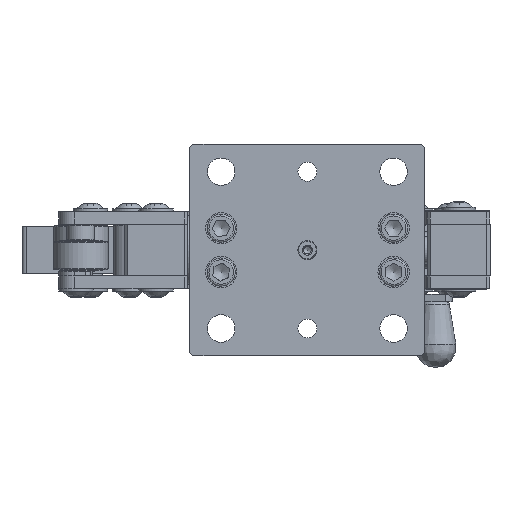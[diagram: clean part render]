
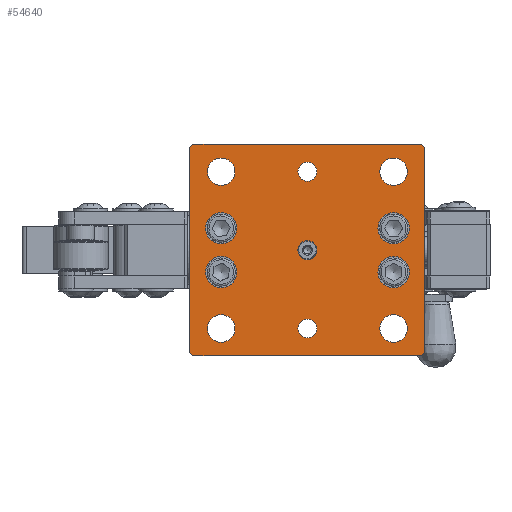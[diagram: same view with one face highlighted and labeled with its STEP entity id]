
A CAD part, left-side view. The second image highlights one B-rep face of the part: STEP entity #54640.
In plain terms, the highlighted planar face has unit normal (-1, 0, 0) as drawn and (0, 0, -1) by its records, which use the part's own axes.
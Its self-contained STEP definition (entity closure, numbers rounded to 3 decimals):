
#5515=FACE_BOUND('',#13416,.T.);
#5516=FACE_BOUND('',#13417,.T.);
#5517=FACE_BOUND('',#13418,.T.);
#5518=FACE_BOUND('',#13419,.T.);
#5519=FACE_BOUND('',#13420,.T.);
#5520=FACE_BOUND('',#13421,.T.);
#5521=FACE_BOUND('',#13422,.T.);
#5522=FACE_BOUND('',#13423,.T.);
#5523=FACE_BOUND('',#13424,.T.);
#5524=FACE_BOUND('',#13425,.T.);
#5525=FACE_BOUND('',#13426,.T.);
#7231=PLANE('',#57289);
#9986=FACE_OUTER_BOUND('',#13415,.T.);
#13415=EDGE_LOOP('',(#50488,#50489,#50490,#50491,#50492,#50493,#50494,#50495));
#13416=EDGE_LOOP('',(#50496));
#13417=EDGE_LOOP('',(#50497));
#13418=EDGE_LOOP('',(#50498));
#13419=EDGE_LOOP('',(#50499));
#13420=EDGE_LOOP('',(#50500));
#13421=EDGE_LOOP('',(#50501));
#13422=EDGE_LOOP('',(#50502));
#13423=EDGE_LOOP('',(#50503));
#13424=EDGE_LOOP('',(#50504));
#13425=EDGE_LOOP('',(#50505));
#13426=EDGE_LOOP('',(#50506));
#18567=LINE('',#94813,#23623);
#18574=LINE('',#94825,#23630);
#18580=LINE('',#94837,#23636);
#18582=LINE('',#94841,#23638);
#18584=LINE('',#94847,#23640);
#18586=LINE('',#94851,#23642);
#18591=LINE('',#94859,#23647);
#18594=LINE('',#94910,#23650);
#23623=VECTOR('',#66912,2.828);
#23630=VECTOR('',#66921,131.);
#23636=VECTOR('',#66931,2.828);
#23638=VECTOR('',#66935,146.);
#23640=VECTOR('',#66941,2.828);
#23642=VECTOR('',#66945,131.);
#23647=VECTOR('',#66952,2.828);
#23650=VECTOR('',#67019,146.);
#24360=CIRCLE('',#57215,6.05);
#24362=CIRCLE('',#57218,6.05);
#24364=CIRCLE('',#57221,6.05);
#24367=CIRCLE('',#57227,8.75);
#24371=CIRCLE('',#57234,8.75);
#24375=CIRCLE('',#57241,8.75);
#24378=CIRCLE('',#57247,8.75);
#24385=CIRCLE('',#57268,10.);
#24388=CIRCLE('',#57274,10.);
#24391=CIRCLE('',#57280,10.);
#24394=CIRCLE('',#57286,10.);
#29046=VERTEX_POINT('',#94754);
#29048=VERTEX_POINT('',#94759);
#29050=VERTEX_POINT('',#94764);
#29053=VERTEX_POINT('',#94773);
#29057=VERTEX_POINT('',#94784);
#29061=VERTEX_POINT('',#94795);
#29064=VERTEX_POINT('',#94804);
#29067=VERTEX_POINT('',#94810);
#29068=VERTEX_POINT('',#94812);
#29072=VERTEX_POINT('',#94823);
#29076=VERTEX_POINT('',#94835);
#29077=VERTEX_POINT('',#94839);
#29078=VERTEX_POINT('',#94844);
#29079=VERTEX_POINT('',#94846);
#29080=VERTEX_POINT('',#94850);
#29089=VERTEX_POINT('',#94879);
#29092=VERTEX_POINT('',#94888);
#29095=VERTEX_POINT('',#94897);
#29098=VERTEX_POINT('',#94906);
#36260=EDGE_CURVE('',#29046,#29046,#24360,.T.);
#36262=EDGE_CURVE('',#29048,#29048,#24362,.T.);
#36264=EDGE_CURVE('',#29050,#29050,#24364,.T.);
#36267=EDGE_CURVE('',#29053,#29053,#24367,.T.);
#36271=EDGE_CURVE('',#29057,#29057,#24371,.T.);
#36275=EDGE_CURVE('',#29061,#29061,#24375,.T.);
#36278=EDGE_CURVE('',#29064,#29064,#24378,.T.);
#36281=EDGE_CURVE('',#29067,#29068,#18567,.T.);
#36288=EDGE_CURVE('',#29067,#29072,#18574,.T.);
#36294=EDGE_CURVE('',#29076,#29072,#18580,.T.);
#36296=EDGE_CURVE('',#29076,#29077,#18582,.T.);
#36298=EDGE_CURVE('',#29078,#29079,#18584,.T.);
#36300=EDGE_CURVE('',#29080,#29079,#18586,.T.);
#36305=EDGE_CURVE('',#29080,#29077,#18591,.T.);
#36314=EDGE_CURVE('',#29089,#29089,#24385,.T.);
#36317=EDGE_CURVE('',#29092,#29092,#24388,.T.);
#36320=EDGE_CURVE('',#29095,#29095,#24391,.T.);
#36323=EDGE_CURVE('',#29098,#29098,#24394,.T.);
#36324=EDGE_CURVE('',#29078,#29068,#18594,.T.);
#50488=ORIENTED_EDGE('',*,*,#36281,.F.);
#50489=ORIENTED_EDGE('',*,*,#36288,.T.);
#50490=ORIENTED_EDGE('',*,*,#36294,.F.);
#50491=ORIENTED_EDGE('',*,*,#36296,.T.);
#50492=ORIENTED_EDGE('',*,*,#36305,.F.);
#50493=ORIENTED_EDGE('',*,*,#36300,.T.);
#50494=ORIENTED_EDGE('',*,*,#36298,.F.);
#50495=ORIENTED_EDGE('',*,*,#36324,.T.);
#50496=ORIENTED_EDGE('',*,*,#36260,.T.);
#50497=ORIENTED_EDGE('',*,*,#36262,.T.);
#50498=ORIENTED_EDGE('',*,*,#36264,.T.);
#50499=ORIENTED_EDGE('',*,*,#36267,.T.);
#50500=ORIENTED_EDGE('',*,*,#36271,.T.);
#50501=ORIENTED_EDGE('',*,*,#36275,.T.);
#50502=ORIENTED_EDGE('',*,*,#36278,.T.);
#50503=ORIENTED_EDGE('',*,*,#36314,.T.);
#50504=ORIENTED_EDGE('',*,*,#36317,.T.);
#50505=ORIENTED_EDGE('',*,*,#36320,.T.);
#50506=ORIENTED_EDGE('',*,*,#36323,.T.);
#54640=ADVANCED_FACE('',(#9986,#5515,#5516,#5517,#5518,#5519,#5520,#5521,
#5522,#5523,#5524,#5525),#7231,.F.);
#57215=AXIS2_PLACEMENT_3D('',#94755,#66842,#66843);
#57218=AXIS2_PLACEMENT_3D('',#94760,#66848,#66849);
#57221=AXIS2_PLACEMENT_3D('',#94765,#66854,#66855);
#57227=AXIS2_PLACEMENT_3D('',#94774,#66866,#66867);
#57234=AXIS2_PLACEMENT_3D('',#94785,#66880,#66881);
#57241=AXIS2_PLACEMENT_3D('',#94796,#66894,#66895);
#57247=AXIS2_PLACEMENT_3D('',#94805,#66906,#66907);
#57268=AXIS2_PLACEMENT_3D('',#94880,#66977,#66978);
#57274=AXIS2_PLACEMENT_3D('',#94889,#66989,#66990);
#57280=AXIS2_PLACEMENT_3D('',#94898,#67001,#67002);
#57286=AXIS2_PLACEMENT_3D('',#94907,#67013,#67014);
#57289=AXIS2_PLACEMENT_3D('',#94911,#67020,#67021);
#66842=DIRECTION('center_axis',(0.,0.,1.));
#66843=DIRECTION('ref_axis',(1.,0.,0.));
#66848=DIRECTION('center_axis',(0.,0.,1.));
#66849=DIRECTION('ref_axis',(1.,0.,0.));
#66854=DIRECTION('center_axis',(0.,0.,1.));
#66855=DIRECTION('ref_axis',(1.,0.,0.));
#66866=DIRECTION('center_axis',(0.,0.,1.));
#66867=DIRECTION('ref_axis',(1.,0.,0.));
#66880=DIRECTION('center_axis',(0.,0.,1.));
#66881=DIRECTION('ref_axis',(1.,0.,0.));
#66894=DIRECTION('center_axis',(0.,0.,1.));
#66895=DIRECTION('ref_axis',(1.,0.,0.));
#66906=DIRECTION('center_axis',(0.,0.,1.));
#66907=DIRECTION('ref_axis',(1.,0.,0.));
#66912=DIRECTION('',(-0.707,-0.707,0.));
#66921=DIRECTION('',(1.,0.,0.));
#66931=DIRECTION('',(-0.707,0.707,0.));
#66935=DIRECTION('',(0.,-1.,0.));
#66941=DIRECTION('',(0.707,-0.707,0.));
#66945=DIRECTION('',(-1.,0.,0.));
#66952=DIRECTION('',(0.707,0.707,0.));
#66977=DIRECTION('center_axis',(0.,0.,1.));
#66978=DIRECTION('ref_axis',(-1.,0.,0.));
#66989=DIRECTION('center_axis',(0.,0.,1.));
#66990=DIRECTION('ref_axis',(-1.,0.,0.));
#67001=DIRECTION('center_axis',(0.,0.,1.));
#67002=DIRECTION('ref_axis',(-1.,0.,0.));
#67013=DIRECTION('center_axis',(0.,0.,1.));
#67014=DIRECTION('ref_axis',(-1.,0.,0.));
#67019=DIRECTION('',(0.,1.,0.));
#67020=DIRECTION('center_axis',(0.,0.,1.));
#67021=DIRECTION('ref_axis',(1.,0.,0.));
#94754=CARTESIAN_POINT('',(-6.05,0.,0.));
#94755=CARTESIAN_POINT('Origin',(0.,0.,0.));
#94759=CARTESIAN_POINT('',(-56.05,0.,0.));
#94760=CARTESIAN_POINT('Origin',(-50.,0.,0.));
#94764=CARTESIAN_POINT('',(43.95,0.,0.));
#94765=CARTESIAN_POINT('Origin',(50.,0.,0.));
#94773=CARTESIAN_POINT('',(41.25,-55.,0.));
#94774=CARTESIAN_POINT('Origin',(50.,-55.,0.));
#94784=CARTESIAN_POINT('',(-58.75,55.,0.));
#94785=CARTESIAN_POINT('Origin',(-50.,55.,0.));
#94795=CARTESIAN_POINT('',(-58.75,-55.,0.));
#94796=CARTESIAN_POINT('Origin',(-50.,-55.,0.));
#94804=CARTESIAN_POINT('',(41.25,55.,0.));
#94805=CARTESIAN_POINT('Origin',(50.,55.,0.));
#94810=CARTESIAN_POINT('',(-65.5,75.,0.));
#94812=CARTESIAN_POINT('',(-67.5,73.,0.));
#94813=CARTESIAN_POINT('',(-68.375,72.125,0.));
#94823=CARTESIAN_POINT('',(65.5,75.,0.));
#94825=CARTESIAN_POINT('',(-67.5,75.,0.));
#94835=CARTESIAN_POINT('',(67.5,73.,0.));
#94837=CARTESIAN_POINT('',(68.375,72.125,0.));
#94839=CARTESIAN_POINT('',(67.5,-73.,0.));
#94841=CARTESIAN_POINT('',(67.5,75.,0.));
#94844=CARTESIAN_POINT('',(-67.5,-73.,0.));
#94846=CARTESIAN_POINT('',(-65.5,-75.,0.));
#94847=CARTESIAN_POINT('',(-68.375,-72.125,0.));
#94850=CARTESIAN_POINT('',(65.5,-75.,0.));
#94851=CARTESIAN_POINT('',(67.5,-75.,0.));
#94859=CARTESIAN_POINT('',(68.375,-72.125,0.));
#94879=CARTESIAN_POINT('',(-24.,-55.,0.));
#94880=CARTESIAN_POINT('Origin',(-14.,-55.,0.));
#94888=CARTESIAN_POINT('',(4.,55.,0.));
#94889=CARTESIAN_POINT('Origin',(14.,55.,0.));
#94897=CARTESIAN_POINT('',(4.,-55.,0.));
#94898=CARTESIAN_POINT('Origin',(14.,-55.,0.));
#94906=CARTESIAN_POINT('',(-24.,55.,0.));
#94907=CARTESIAN_POINT('Origin',(-14.,55.,0.));
#94910=CARTESIAN_POINT('',(-67.5,-75.,0.));
#94911=CARTESIAN_POINT('Origin',(0.,0.,0.));
